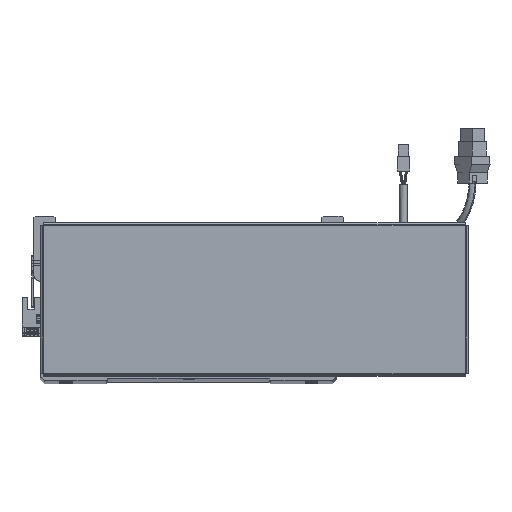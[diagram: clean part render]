
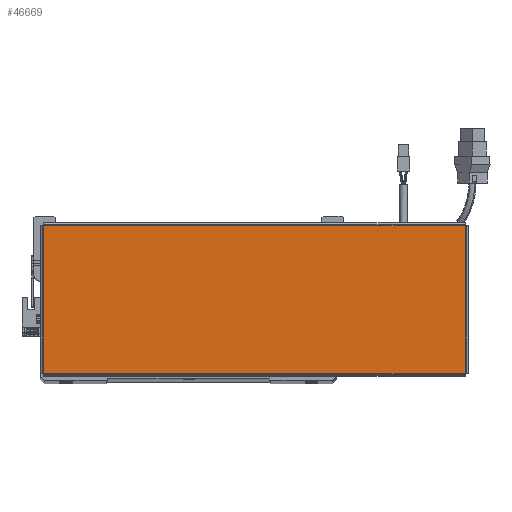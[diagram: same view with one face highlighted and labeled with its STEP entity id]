
A CAD part, top view. The second image highlights one B-rep face of the part: STEP entity #46669.
In plain terms, the highlighted planar face has unit normal (0, 0, 1).
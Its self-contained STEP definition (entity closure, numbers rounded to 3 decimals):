
#646 = VECTOR ( 'NONE', #23771, 1000. ) ;
#751 = CARTESIAN_POINT ( 'NONE',  ( 156.513, -54.763, 0. ) ) ;
#3653 = ORIENTED_EDGE ( 'NONE', *, *, #13173, .T. ) ;
#9734 = CARTESIAN_POINT ( 'NONE',  ( -156.513, 54.763, 0. ) ) ;
#12971 = CARTESIAN_POINT ( 'NONE',  ( 156.513, -54.793, 0. ) ) ;
#13099 = CARTESIAN_POINT ( 'NONE',  ( 156.543, 54.763, 0. ) ) ;
#13173 = EDGE_CURVE ( 'NONE', #19211, #50574, #14986, .T. ) ;
#13337 = EDGE_CURVE ( 'NONE', #62563, #40269, #34397, .T. ) ;
#13904 = ORIENTED_EDGE ( 'NONE', *, *, #48397, .T. ) ;
#14986 = LINE ( 'NONE', #13099, #66045 ) ;
#17826 = ORIENTED_EDGE ( 'NONE', *, *, #13337, .T. ) ;
#18471 = EDGE_LOOP ( 'NONE', ( #17826, #43673, #3653, #13904 ) ) ;
#19136 = AXIS2_PLACEMENT_3D ( 'NONE', #46651, #28967, #52323 ) ;
#19211 = VERTEX_POINT ( 'NONE', #48167 ) ;
#20927 = CARTESIAN_POINT ( 'NONE',  ( -156.513, -54.763, 0. ) ) ;
#23771 = DIRECTION ( 'NONE',  ( 0., -1., 0. ) ) ;
#24659 = DIRECTION ( 'NONE',  ( 1., 0., 0. ) ) ;
#28967 = DIRECTION ( 'NONE',  ( 0., 0., 1. ) ) ;
#29710 = CARTESIAN_POINT ( 'NONE',  ( -156.513, 54.793, 0. ) ) ;
#34397 = LINE ( 'NONE', #69899, #60752 ) ;
#38509 = EDGE_CURVE ( 'NONE', #40269, #19211, #45513, .T. ) ;
#40269 = VERTEX_POINT ( 'NONE', #751 ) ;
#43673 = ORIENTED_EDGE ( 'NONE', *, *, #38509, .T. ) ;
#44893 = FACE_OUTER_BOUND ( 'NONE', #18471, .T. ) ;
#45513 = LINE ( 'NONE', #12971, #46258 ) ;
#46258 = VECTOR ( 'NONE', #57538, 1000. ) ;
#46651 = CARTESIAN_POINT ( 'NONE',  ( 0., 0., 0. ) ) ;
#46669 = ADVANCED_FACE ( 'NONE', ( #44893 ), #56987, .T. ) ;
#48167 = CARTESIAN_POINT ( 'NONE',  ( 156.513, 54.763, 0. ) ) ;
#48397 = EDGE_CURVE ( 'NONE', #50574, #62563, #54322, .T. ) ;
#50574 = VERTEX_POINT ( 'NONE', #9734 ) ;
#52323 = DIRECTION ( 'NONE',  ( 1., 0., 0. ) ) ;
#54322 = LINE ( 'NONE', #29710, #646 ) ;
#56987 = PLANE ( 'NONE',  #19136 ) ;
#57538 = DIRECTION ( 'NONE',  ( 0., 1., 0. ) ) ;
#60752 = VECTOR ( 'NONE', #24659, 1000. ) ;
#62563 = VERTEX_POINT ( 'NONE', #20927 ) ;
#63798 = DIRECTION ( 'NONE',  ( -1., 0., 0. ) ) ;
#66045 = VECTOR ( 'NONE', #63798, 1000. ) ;
#69899 = CARTESIAN_POINT ( 'NONE',  ( -156.543, -54.763, 0. ) ) ;
